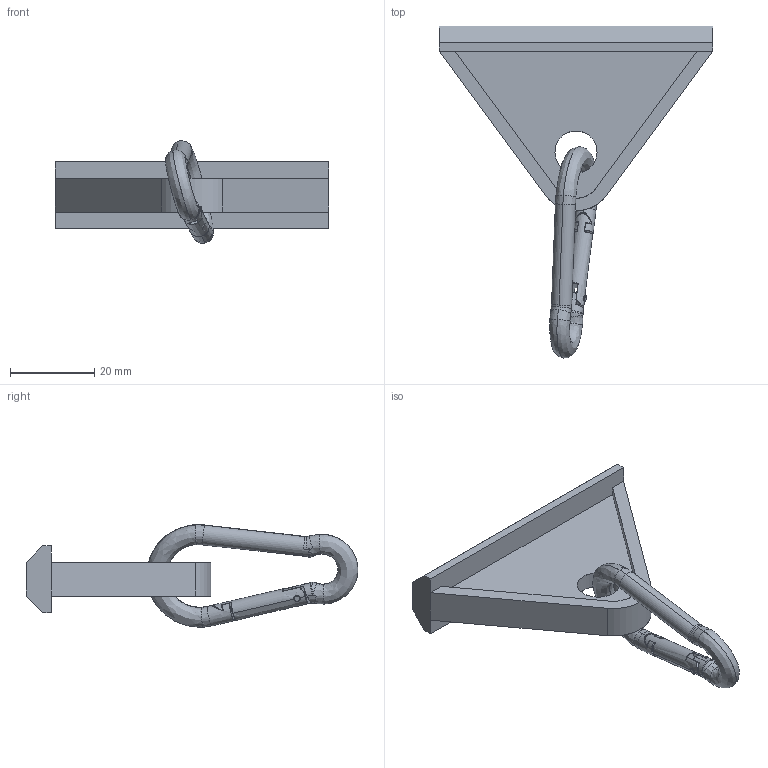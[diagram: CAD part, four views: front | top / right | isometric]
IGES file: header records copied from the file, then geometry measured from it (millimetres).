
Start section: SolidWorks IGES file using analytic representation for surfaces
Global section: file name: D:\LETROMEC CATALOGUE\TOOL HANGER\assembly tool hanger.IGS; native system: SolidWorks 2013; preprocessor: SolidWorks 2013; author: User; date: 180315.210042; units: millimetre
Bounding box: 65 x 79.03 x 24.42 mm (x, y, z)
Surface area: 8245.6 mm2 (no closed solid volume)
Topology: 0 solids, 0 shells, 177 faces, 1460 edges, 1448 vertices
Faces by surface type: bspline 125, revolution 52
